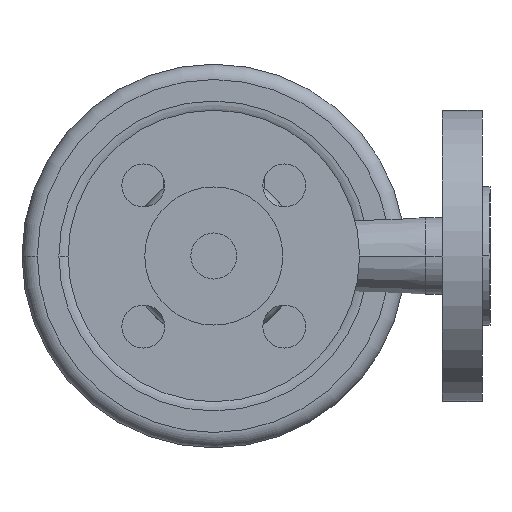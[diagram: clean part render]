
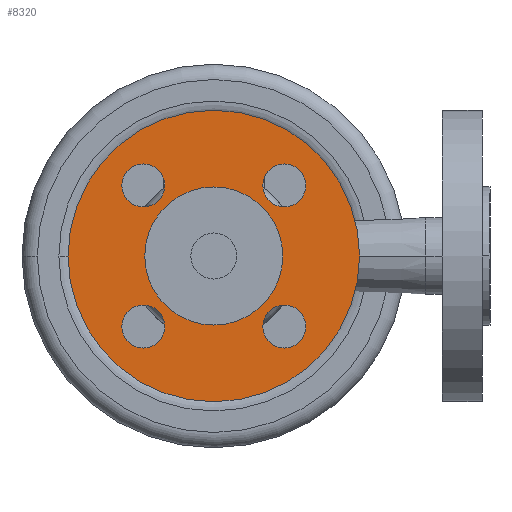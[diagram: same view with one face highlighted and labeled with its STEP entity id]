
A CAD part, front view. The second image highlights one B-rep face of the part: STEP entity #8320.
In plain terms, the highlighted planar face has unit normal (0, -1, 0).
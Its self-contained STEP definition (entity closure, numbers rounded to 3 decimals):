
#610=CARTESIAN_POINT('',(22.5,2.5,0.));
#620=VERTEX_POINT('',#610);
#780=CARTESIAN_POINT('',(-22.5,2.5,0.));
#790=VERTEX_POINT('',#780);
#820=CARTESIAN_POINT('',(0.,2.5,0.));
#830=DIRECTION('',(0.,-1.,0.));
#840=DIRECTION('',(-1.,0.,0.));
#850=AXIS2_PLACEMENT_3D('',#820,#830,#840);
#860=CIRCLE('',#850,22.5);
#870=EDGE_CURVE('',#620,#790,#860,.T.);
#3580=CARTESIAN_POINT('',(-47.5,2.5,0.));
#3590=VERTEX_POINT('',#3580);
#3750=CARTESIAN_POINT('',(47.5,2.5,0.));
#3760=VERTEX_POINT('',#3750);
#3790=CARTESIAN_POINT('',(0.,2.5,0.));
#3800=DIRECTION('',(0.,1.,0.));
#3810=DIRECTION('',(1.,0.,0.));
#3820=AXIS2_PLACEMENT_3D('',#3790,#3800,#3810);
#3830=CIRCLE('',#3820,47.5);
#3840=EDGE_CURVE('',#3590,#3760,#3830,.T.);
#4070=CARTESIAN_POINT('',(15.981,2.5,-22.981));
#4080=VERTEX_POINT('',#4070);
#4110=CARTESIAN_POINT('',(22.981,2.5,-22.981));
#4120=DIRECTION('',(0.,1.,0.));
#4130=DIRECTION('',(1.,0.,0.));
#4140=AXIS2_PLACEMENT_3D('',#4110,#4120,#4130);
#4150=CIRCLE('',#4140,7.);
#4160=CARTESIAN_POINT('',(29.981,2.5,-22.981));
#4170=VERTEX_POINT('',#4160);
#4180=EDGE_CURVE('',#4080,#4170,#4150,.T.);
#4560=CARTESIAN_POINT('',(29.981,2.5,22.981));
#4570=VERTEX_POINT('',#4560);
#4600=CARTESIAN_POINT('',(22.981,2.5,22.981));
#4610=DIRECTION('',(0.,1.,0.));
#4620=DIRECTION('',(1.,0.,0.));
#4630=AXIS2_PLACEMENT_3D('',#4600,#4610,#4620);
#4640=CIRCLE('',#4630,7.);
#4650=CARTESIAN_POINT('',(15.981,2.5,22.981));
#4660=VERTEX_POINT('',#4650);
#4670=EDGE_CURVE('',#4570,#4660,#4640,.T.);
#5050=CARTESIAN_POINT('',(-29.981,2.5,-22.981));
#5060=VERTEX_POINT('',#5050);
#5220=CARTESIAN_POINT('',(-15.981,2.5,-22.981));
#5230=VERTEX_POINT('',#5220);
#5260=CARTESIAN_POINT('',(-22.981,2.5,-22.981));
#5270=DIRECTION('',(0.,1.,0.));
#5280=DIRECTION('',(1.,0.,0.));
#5290=AXIS2_PLACEMENT_3D('',#5260,#5270,#5280);
#5300=CIRCLE('',#5290,7.);
#5310=EDGE_CURVE('',#5230,#5060,#5300,.T.);
#5540=CARTESIAN_POINT('',(-29.981,2.5,22.981));
#5550=VERTEX_POINT('',#5540);
#5710=CARTESIAN_POINT('',(-15.981,2.5,22.981));
#5720=VERTEX_POINT('',#5710);
#5750=CARTESIAN_POINT('',(-22.981,2.5,22.981));
#5760=DIRECTION('',(0.,1.,0.));
#5770=DIRECTION('',(1.,0.,0.));
#5780=AXIS2_PLACEMENT_3D('',#5750,#5760,#5770);
#5790=CIRCLE('',#5780,7.);
#5800=EDGE_CURVE('',#5720,#5550,#5790,.T.);
#7970=CARTESIAN_POINT('',(0.,2.5,0.));
#7980=DIRECTION('',(0.,1.,0.));
#7990=DIRECTION('',(0.,0.,1.));
#8000=AXIS2_PLACEMENT_3D('',#7970,#7980,#7990);
#8010=PLANE('',#8000);
#8020=EDGE_CURVE('',#5550,#5720,#5790,.T.);
#8030=ORIENTED_EDGE('',*,*,#8020,.T.);
#8040=ORIENTED_EDGE('',*,*,#5800,.T.);
#8050=EDGE_LOOP('',(#8040,#8030));
#8060=FACE_BOUND('',#8050,.T.);
#8070=EDGE_CURVE('',#5060,#5230,#5300,.T.);
#8080=ORIENTED_EDGE('',*,*,#8070,.T.);
#8090=ORIENTED_EDGE('',*,*,#5310,.T.);
#8100=EDGE_LOOP('',(#8090,#8080));
#8110=FACE_BOUND('',#8100,.T.);
#8120=ORIENTED_EDGE('',*,*,#4670,.T.);
#8130=EDGE_CURVE('',#4660,#4570,#4640,.T.);
#8140=ORIENTED_EDGE('',*,*,#8130,.T.);
#8150=EDGE_LOOP('',(#8140,#8120));
#8160=FACE_BOUND('',#8150,.T.);
#8170=ORIENTED_EDGE('',*,*,#4180,.T.);
#8180=EDGE_CURVE('',#4170,#4080,#4150,.T.);
#8190=ORIENTED_EDGE('',*,*,#8180,.T.);
#8200=EDGE_LOOP('',(#8190,#8170));
#8210=FACE_BOUND('',#8200,.T.);
#8220=EDGE_CURVE('',#3760,#3590,#3830,.T.);
#8230=ORIENTED_EDGE('',*,*,#8220,.F.);
#8240=ORIENTED_EDGE('',*,*,#3840,.F.);
#8250=EDGE_LOOP('',(#8240,#8230));
#8260=FACE_OUTER_BOUND('',#8250,.T.);
#8270=EDGE_CURVE('',#790,#620,#860,.T.);
#8280=ORIENTED_EDGE('',*,*,#8270,.F.);
#8290=ORIENTED_EDGE('',*,*,#870,.F.);
#8300=EDGE_LOOP('',(#8290,#8280));
#8310=FACE_BOUND('',#8300,.T.);
#8320=ADVANCED_FACE('',(#8060,#8110,#8160,#8210,#8260,#8310),#8010,.F.);
